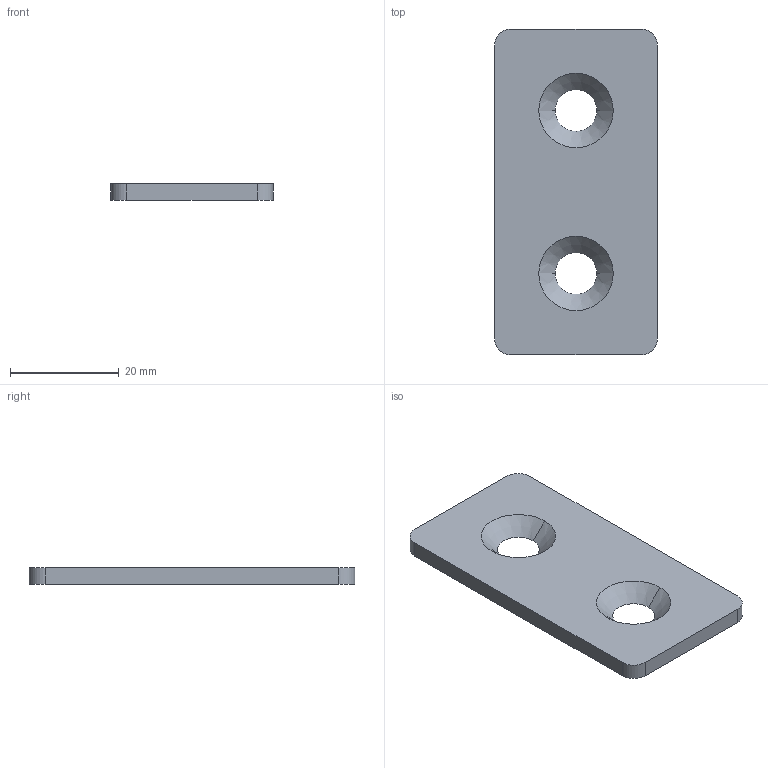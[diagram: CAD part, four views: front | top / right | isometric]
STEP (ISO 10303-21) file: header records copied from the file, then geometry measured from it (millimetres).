
FILE_DESCRIPTION (( 'STEP AP203' ), '1' );
FILE_NAME ('0106LCH30.STEP', '2024-09-04T08:53:15', ( 'Windows-Benutzer' ), ( '' ), 'SwSTEP 2.0', 'SolidWorks 2024', '' );
FILE_SCHEMA (( 'CONFIG_CONTROL_DESIGN' ));
Length unit declared in the file: millimetre
Products named in the file (1): 0106LCH30
Bounding box: 30 x 60 x 3 mm (x, y, z)
Volume: 4822.2 mm3; surface area: 4006 mm2
Topology: 1 solids, 1 shells, 14 faces, 36 edges, 24 vertices
Faces by surface type: plane 6, cone 4, cylinder 4
Entity records: 521 total; most frequent: DIRECTION 82, CARTESIAN_POINT 75, ORIENTED_EDGE 72, EDGE_CURVE 36, AXIS2_PLACEMENT_3D 31, VERTEX_POINT 24, LINE 20, VECTOR 20
